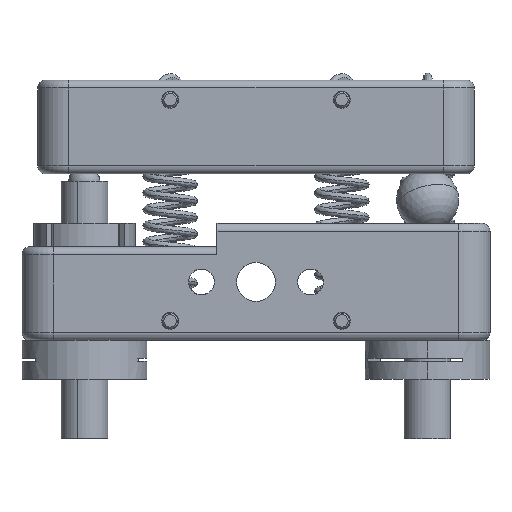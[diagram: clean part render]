
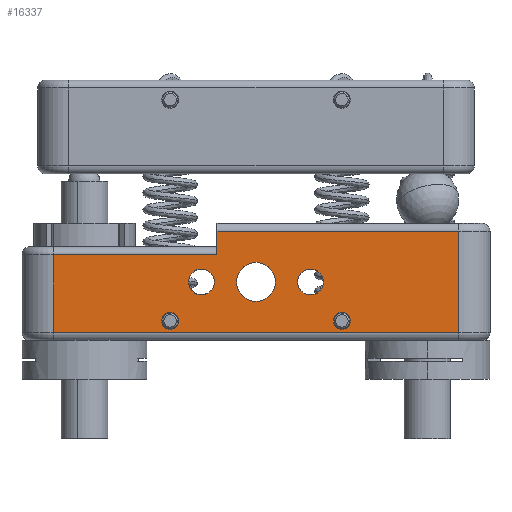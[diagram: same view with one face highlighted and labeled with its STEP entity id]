
A CAD part, left-side view. The second image highlights one B-rep face of the part: STEP entity #16337.
In plain terms, the highlighted planar face has unit normal (-1, 0, 0).
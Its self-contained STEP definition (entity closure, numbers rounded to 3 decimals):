
#161 = EDGE_CURVE ( 'NONE', #6160, #11650, #19198, .T. ) ;
#330 = AXIS2_PLACEMENT_3D ( 'NONE', #1274, #14452, #3192 ) ;
#465 = DIRECTION ( 'NONE',  ( 0., 0., 1. ) ) ;
#508 = DIRECTION ( 'NONE',  ( -1., 0., 0. ) ) ;
#688 = CARTESIAN_POINT ( 'NONE',  ( -31.266, 7.345, 9.15 ) ) ;
#734 = VERTEX_POINT ( 'NONE', #3982 ) ;
#743 = CARTESIAN_POINT ( 'NONE',  ( -31.266, -25.655, 14. ) ) ;
#847 = AXIS2_PLACEMENT_3D ( 'NONE', #17476, #6284, #19326 ) ;
#975 = LINE ( 'NONE', #20993, #20308 ) ;
#1221 = CARTESIAN_POINT ( 'NONE',  ( -31.266, 5.345, 14. ) ) ;
#1274 = CARTESIAN_POINT ( 'NONE',  ( -31.266, 7.345, 7.5 ) ) ;
#1362 = VERTEX_POINT ( 'NONE', #1513 ) ;
#1513 = CARTESIAN_POINT ( 'NONE',  ( -31.266, 7.345, 5.85 ) ) ;
#1737 = CARTESIAN_POINT ( 'NONE',  ( -31.266, 5.345, 14. ) ) ;
#1784 = AXIS2_PLACEMENT_3D ( 'NONE', #13269, #1980, #15116 ) ;
#1864 = FACE_BOUND ( 'NONE', #14257, .T. ) ;
#1928 = EDGE_LOOP ( 'NONE', ( #20360, #4033 ) ) ;
#1975 = LINE ( 'NONE', #1221, #21260 ) ;
#1980 = DIRECTION ( 'NONE',  ( -1., 0., 0. ) ) ;
#2063 = AXIS2_PLACEMENT_3D ( 'NONE', #22675, #13476, #2160 ) ;
#2160 = DIRECTION ( 'NONE',  ( 0., 0., -1. ) ) ;
#2173 = ORIENTED_EDGE ( 'NONE', *, *, #5257, .F. ) ;
#2257 = ORIENTED_EDGE ( 'NONE', *, *, #14739, .F. ) ;
#2545 = VECTOR ( 'NONE', #22487, 1000. ) ;
#2772 = CIRCLE ( 'NONE', #847, 2.5 ) ;
#2836 = ORIENTED_EDGE ( 'NONE', *, *, #12722, .F. ) ;
#2915 = DIRECTION ( 'NONE',  ( -1., 0., 0. ) ) ;
#3135 = VERTEX_POINT ( 'NONE', #19751 ) ;
#3192 = DIRECTION ( 'NONE',  ( 0., 0., 1. ) ) ;
#3273 = CARTESIAN_POINT ( 'NONE',  ( -31.266, -10.655, 2.5 ) ) ;
#3499 = EDGE_CURVE ( 'NONE', #20335, #1362, #4076, .T. ) ;
#3675 = CIRCLE ( 'NONE', #330, 1.65 ) ;
#3711 = CIRCLE ( 'NONE', #17463, 1.1 ) ;
#3902 = CARTESIAN_POINT ( 'NONE',  ( -31.266, -25.655, 1. ) ) ;
#3982 = CARTESIAN_POINT ( 'NONE',  ( -31.266, -10.655, 1.4 ) ) ;
#4033 = ORIENTED_EDGE ( 'NONE', *, *, #16069, .F. ) ;
#4076 = CIRCLE ( 'NONE', #12409, 1.65 ) ;
#4671 = DIRECTION ( 'NONE',  ( 0., 0., 1. ) ) ;
#4689 = CARTESIAN_POINT ( 'NONE',  ( -31.266, 7.345, 7.5 ) ) ;
#4847 = ORIENTED_EDGE ( 'NONE', *, *, #20311, .T. ) ;
#4874 = VERTEX_POINT ( 'NONE', #10582 ) ;
#4881 = CARTESIAN_POINT ( 'NONE',  ( -31.266, 11.345, 1.4 ) ) ;
#5186 = DIRECTION ( 'NONE',  ( 0., 0., 1. ) ) ;
#5193 = ORIENTED_EDGE ( 'NONE', *, *, #3499, .F. ) ;
#5252 = CARTESIAN_POINT ( 'NONE',  ( -31.266, -25.655, 15. ) ) ;
#5257 = EDGE_CURVE ( 'NONE', #4874, #8703, #975, .T. ) ;
#5313 = VECTOR ( 'NONE', #19427, 1000. ) ;
#6028 = VERTEX_POINT ( 'NONE', #11314 ) ;
#6160 = VERTEX_POINT ( 'NONE', #3902 ) ;
#6284 = DIRECTION ( 'NONE',  ( -1., 0., 0. ) ) ;
#6296 = FACE_OUTER_BOUND ( 'NONE', #12883, .T. ) ;
#6344 = DIRECTION ( 'NONE',  ( -1., 0., 0. ) ) ;
#6411 = CARTESIAN_POINT ( 'NONE',  ( -31.266, 30.345, 1. ) ) ;
#6443 = EDGE_CURVE ( 'NONE', #17222, #7281, #20821, .T. ) ;
#6493 = DIRECTION ( 'NONE',  ( -1., 0., 0. ) ) ;
#6719 = DIRECTION ( 'NONE',  ( -1., 0., 0. ) ) ;
#6929 = FACE_BOUND ( 'NONE', #7569, .T. ) ;
#7281 = VERTEX_POINT ( 'NONE', #4881 ) ;
#7295 = CIRCLE ( 'NONE', #15027, 1.1 ) ;
#7569 = EDGE_LOOP ( 'NONE', ( #23562, #2836 ) ) ;
#7608 = LINE ( 'NONE', #16901, #2545 ) ;
#7854 = AXIS2_PLACEMENT_3D ( 'NONE', #11838, #508, #13684 ) ;
#8186 = ORIENTED_EDGE ( 'NONE', *, *, #9513, .T. ) ;
#8252 = EDGE_CURVE ( 'NONE', #18001, #15767, #20155, .T. ) ;
#8703 = VERTEX_POINT ( 'NONE', #1737 ) ;
#8984 = EDGE_CURVE ( 'NONE', #11650, #8703, #1975, .T. ) ;
#9349 = EDGE_CURVE ( 'NONE', #3135, #11834, #21558, .T. ) ;
#9513 = EDGE_CURVE ( 'NONE', #4874, #10566, #24195, .T. ) ;
#9642 = EDGE_CURVE ( 'NONE', #10566, #6028, #7608, .T. ) ;
#10399 = EDGE_CURVE ( 'NONE', #20872, #734, #3711, .T. ) ;
#10566 = VERTEX_POINT ( 'NONE', #15951 ) ;
#10582 = CARTESIAN_POINT ( 'NONE',  ( -31.266, 5.345, 11. ) ) ;
#10955 = DIRECTION ( 'NONE',  ( 0., 1., 0. ) ) ;
#11314 = CARTESIAN_POINT ( 'NONE',  ( -31.266, 26.345, 1. ) ) ;
#11361 = FACE_BOUND ( 'NONE', #1928, .T. ) ;
#11472 = PLANE ( 'NONE',  #2063 ) ;
#11650 = VERTEX_POINT ( 'NONE', #743 ) ;
#11834 = VERTEX_POINT ( 'NONE', #12239 ) ;
#11838 = CARTESIAN_POINT ( 'NONE',  ( -31.266, 0.345, 7.5 ) ) ;
#12230 = ORIENTED_EDGE ( 'NONE', *, *, #161, .T. ) ;
#12239 = CARTESIAN_POINT ( 'NONE',  ( -31.266, -6.655, 5.85 ) ) ;
#12409 = AXIS2_PLACEMENT_3D ( 'NONE', #4689, #20192, #4671 ) ;
#12722 = EDGE_CURVE ( 'NONE', #734, #20872, #7295, .T. ) ;
#12883 = EDGE_LOOP ( 'NONE', ( #13699, #4847, #12230, #22254, #2173, #8186 ) ) ;
#12942 = CARTESIAN_POINT ( 'NONE',  ( -31.266, -10.655, 3.6 ) ) ;
#12973 = EDGE_LOOP ( 'NONE', ( #18930, #22974 ) ) ;
#13269 = CARTESIAN_POINT ( 'NONE',  ( -31.266, -6.655, 7.5 ) ) ;
#13270 = EDGE_CURVE ( 'NONE', #7281, #17222, #13718, .T. ) ;
#13476 = DIRECTION ( 'NONE',  ( 1., 0., 0. ) ) ;
#13684 = DIRECTION ( 'NONE',  ( 0., 0., 1. ) ) ;
#13699 = ORIENTED_EDGE ( 'NONE', *, *, #9642, .T. ) ;
#13718 = CIRCLE ( 'NONE', #15310, 1.1 ) ;
#14172 = CARTESIAN_POINT ( 'NONE',  ( -31.266, -6.655, 7.5 ) ) ;
#14257 = EDGE_LOOP ( 'NONE', ( #21676, #17966 ) ) ;
#14313 = VECTOR ( 'NONE', #22095, 1000. ) ;
#14339 = VECTOR ( 'NONE', #10955, 1000. ) ;
#14452 = DIRECTION ( 'NONE',  ( -1., 0., 0. ) ) ;
#14739 = EDGE_CURVE ( 'NONE', #1362, #20335, #3675, .T. ) ;
#15027 = AXIS2_PLACEMENT_3D ( 'NONE', #17528, #6344, #19377 ) ;
#15116 = DIRECTION ( 'NONE',  ( 0., 0., 1. ) ) ;
#15310 = AXIS2_PLACEMENT_3D ( 'NONE', #17872, #6719, #19721 ) ;
#15458 = EDGE_CURVE ( 'NONE', #15767, #18001, #2772, .T. ) ;
#15767 = VERTEX_POINT ( 'NONE', #21923 ) ;
#15826 = LINE ( 'NONE', #6411, #5313 ) ;
#15951 = CARTESIAN_POINT ( 'NONE',  ( -31.266, 26.345, 11. ) ) ;
#16026 = DIRECTION ( 'NONE',  ( 0., 0., 1. ) ) ;
#16069 = EDGE_CURVE ( 'NONE', #11834, #3135, #22911, .T. ) ;
#16252 = FACE_BOUND ( 'NONE', #12973, .T. ) ;
#16337 = ADVANCED_FACE ( 'NONE', ( #6929, #1864, #16252, #21156, #11361, #6296 ), #11472, .F. ) ;
#16394 = DIRECTION ( 'NONE',  ( -1., 0., 0. ) ) ;
#16901 = CARTESIAN_POINT ( 'NONE',  ( -31.266, 26.345, 15. ) ) ;
#17222 = VERTEX_POINT ( 'NONE', #22247 ) ;
#17463 = AXIS2_PLACEMENT_3D ( 'NONE', #3273, #16394, #5186 ) ;
#17476 = CARTESIAN_POINT ( 'NONE',  ( -31.266, 0.345, 7.5 ) ) ;
#17528 = CARTESIAN_POINT ( 'NONE',  ( -31.266, -10.655, 2.5 ) ) ;
#17650 = CARTESIAN_POINT ( 'NONE',  ( -31.266, 11.345, 2.5 ) ) ;
#17872 = CARTESIAN_POINT ( 'NONE',  ( -31.266, 11.345, 2.5 ) ) ;
#17966 = ORIENTED_EDGE ( 'NONE', *, *, #13270, .F. ) ;
#18001 = VERTEX_POINT ( 'NONE', #18260 ) ;
#18117 = AXIS2_PLACEMENT_3D ( 'NONE', #14172, #2915, #16026 ) ;
#18260 = CARTESIAN_POINT ( 'NONE',  ( -31.266, 0.345, 10. ) ) ;
#18290 = EDGE_LOOP ( 'NONE', ( #5193, #2257 ) ) ;
#18930 = ORIENTED_EDGE ( 'NONE', *, *, #8252, .F. ) ;
#19198 = LINE ( 'NONE', #5252, #14313 ) ;
#19326 = DIRECTION ( 'NONE',  ( 0., 0., 1. ) ) ;
#19377 = DIRECTION ( 'NONE',  ( 0., 0., 1. ) ) ;
#19427 = DIRECTION ( 'NONE',  ( 0., -1., 0. ) ) ;
#19520 = DIRECTION ( 'NONE',  ( 0., 0., 1. ) ) ;
#19597 = AXIS2_PLACEMENT_3D ( 'NONE', #17650, #6493, #19520 ) ;
#19721 = DIRECTION ( 'NONE',  ( 0., 0., 1. ) ) ;
#19751 = CARTESIAN_POINT ( 'NONE',  ( -31.266, -6.655, 9.15 ) ) ;
#20041 = DIRECTION ( 'NONE',  ( 0., 1., 0. ) ) ;
#20155 = CIRCLE ( 'NONE', #7854, 2.5 ) ;
#20192 = DIRECTION ( 'NONE',  ( -1., 0., 0. ) ) ;
#20308 = VECTOR ( 'NONE', #465, 1000. ) ;
#20311 = EDGE_CURVE ( 'NONE', #6028, #6160, #15826, .T. ) ;
#20335 = VERTEX_POINT ( 'NONE', #688 ) ;
#20360 = ORIENTED_EDGE ( 'NONE', *, *, #9349, .F. ) ;
#20821 = CIRCLE ( 'NONE', #19597, 1.1 ) ;
#20872 = VERTEX_POINT ( 'NONE', #12942 ) ;
#20993 = CARTESIAN_POINT ( 'NONE',  ( -31.266, 5.345, 12. ) ) ;
#21156 = FACE_BOUND ( 'NONE', #18290, .T. ) ;
#21260 = VECTOR ( 'NONE', #20041, 1000. ) ;
#21558 = CIRCLE ( 'NONE', #18117, 1.65 ) ;
#21676 = ORIENTED_EDGE ( 'NONE', *, *, #6443, .F. ) ;
#21923 = CARTESIAN_POINT ( 'NONE',  ( -31.266, 0.345, 5. ) ) ;
#22095 = DIRECTION ( 'NONE',  ( 0., 0., 1. ) ) ;
#22247 = CARTESIAN_POINT ( 'NONE',  ( -31.266, 11.345, 3.6 ) ) ;
#22254 = ORIENTED_EDGE ( 'NONE', *, *, #8984, .T. ) ;
#22487 = DIRECTION ( 'NONE',  ( 0., 0., -1. ) ) ;
#22675 = CARTESIAN_POINT ( 'NONE',  ( -31.266, 30.345, 15. ) ) ;
#22911 = CIRCLE ( 'NONE', #1784, 1.65 ) ;
#22974 = ORIENTED_EDGE ( 'NONE', *, *, #15458, .F. ) ;
#23562 = ORIENTED_EDGE ( 'NONE', *, *, #10399, .F. ) ;
#23905 = CARTESIAN_POINT ( 'NONE',  ( -31.266, 26.345, 11. ) ) ;
#24195 = LINE ( 'NONE', #23905, #14339 ) ;
